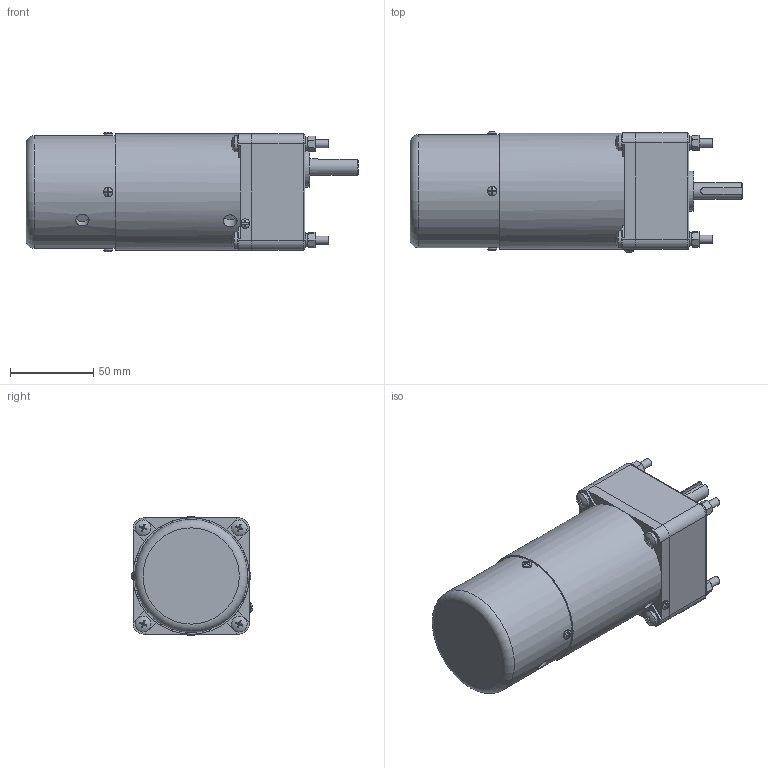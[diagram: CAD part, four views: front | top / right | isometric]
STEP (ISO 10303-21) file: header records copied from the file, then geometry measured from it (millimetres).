
FILE_DESCRIPTION(/* description */ (''),/* implementation_level */ '2;1');
FILE_NAME(/* name */ '70矮箱T-25刹车.stp',/* time_stamp */ '2022-10-31T09:39:02+08:00',/* author */ (''),/* organization */ (''),/* preprocessor_version */ 'ST-DEVELOPER v16.7',/* originating_system */ 'SIEMENS PLM Software NX 1899',/* authorisation */ '');
FILE_SCHEMA (('AP203_CONFIGURATION_CONTROLLED_3D_DESIGN_OF_MECHANICAL_PARTS_AND_ASSEMBLIES_MIM_LF { 1 0 10303 403 2 1 2}'));
Length unit declared in the file: millimetre
Products named in the file (1): yf186188FEB6lcb0
Bounding box: 200 x 73.08 x 72.08 mm (x, y, z)
Volume: 676103 mm3; surface area: 69634.5 mm2
Topology: 22 solids, 23 shells, 447 faces, 1074 edges, 694 vertices
Faces by surface type: plane 207, bspline 80, cylinder 77, cone 63, torus 11, sphere 9
Full cylindrical faces by diameter (mm): 2.7 x1, 4.351 x4, 4.826 x4, 5 x4, 5.3 x8, 5.6 x5, 6 x9, 8 x1, 8.3 x1, 9 x8, 9.5 x4, 10 x1, 24 x1, 63 x1, 66.6 x2, 68 x1, 70 x1
Entity records: 14328 total; most frequent: CARTESIAN_POINT 3856, ORIENTED_EDGE 1904, DIRECTION 1699, EDGE_CURVE 952, AXIS2_PLACEMENT_3D 706, VERTEX_POINT 658, EDGE_LOOP 593, ADVANCED_FACE 447
